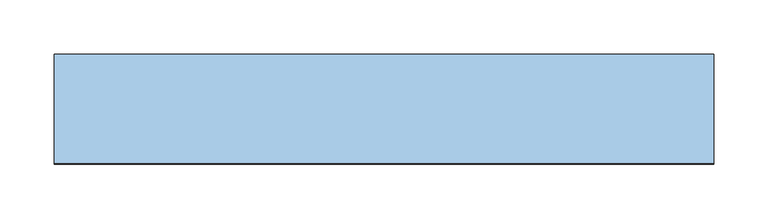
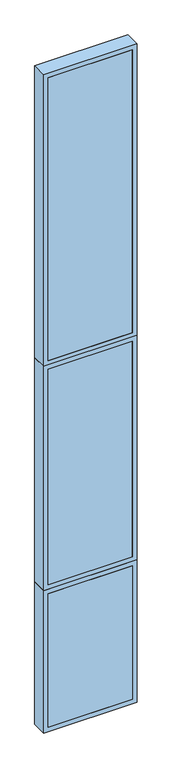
"""IFC4 building model written with IfcOpenShell, lengths in millimetres: window geometry, TRP_CP_ARC_FI_V1 : AL_P02_60.5."""

from ifc_helpers import new_model, si_unit, frame, origin, place, context, project, spatial, polyline, outline, extrude, source, transform, mapped, element, save


def window_a744d560(model_context):
    return source(origin(), model_context, "Body", "SweptSolid", [
        extrude(outline(polyline([(272.5, -50.0), (-272.5, -50.0), (-272.5, -30.0), (272.5, -30.0), (272.5, -50.0)])), frame((0.0, 0.0, 30.0), z_axis=(0.0, 0.0, 1.0), x_axis=(1.0, 0.0, 0.0)), (0.0, 0.0, 1.0), 913.0),
        extrude(outline(polyline([(973.0, 302.5), (973.0, -302.5), (0.0, -302.5), (0.0, 302.5), (973.0, 302.5)]), holes=[polyline([(30.0, 272.5), (30.0, -272.5), (943.0, -272.5), (943.0, 272.5), (30.0, 272.5)])]), frame((0.0, -50.0, 0.0), z_axis=(0.0, 1.0, 0.0), x_axis=(0.0, 0.0, 1.0)), (0.0, 0.0, 1.0), 100.0),
        extrude(outline(polyline([(2506.0, 302.5), (2506.0, -302.5), (973.0, -302.5), (973.0, 302.5), (2506.0, 302.5)]), holes=[polyline([(1003.0, 272.5), (1003.0, -272.5), (2476.0, -272.5), (2476.0, 272.5), (1003.0, 272.5)])]), frame((0.0, -50.0, 0.0), z_axis=(0.0, 1.0, 0.0), x_axis=(0.0, 0.0, 1.0)), (0.0, 0.0, 1.0), 100.0),
        extrude(outline(polyline([(272.5, -50.0), (-272.5, -50.0), (-272.5, -30.0), (272.5, -30.0), (272.5, -50.0)])), frame((0.0, 0.0, 1003.0), z_axis=(0.0, 0.0, 1.0), x_axis=(1.0, 0.0, 0.0)), (0.0, 0.0, 1.0), 1473.0),
        extrude(outline(polyline([(4500.0, 302.5), (4500.0, -302.5), (2506.0, -302.5), (2506.0, 302.5), (4500.0, 302.5)]), holes=[polyline([(2536.0, 272.5), (2536.0, -272.5), (4470.0, -272.5), (4470.0, 272.5), (2536.0, 272.5)])]), frame((0.0, -50.0, 0.0), z_axis=(0.0, 1.0, 0.0), x_axis=(0.0, 0.0, 1.0)), (0.0, 0.0, 1.0), 100.0),
        extrude(outline(polyline([(272.5, -50.0), (-272.5, -50.0), (-272.5, -30.0), (272.5, -30.0), (272.5, -50.0)])), frame((0.0, 0.0, 2536.0), z_axis=(0.0, 0.0, 1.0), x_axis=(1.0, 0.0, 0.0)), (0.0, 0.0, 1.0), 1934.0),
    ])


if __name__ == "__main__":
    model = new_model("IFC4")
    model_context = context("Model", 3, world=origin())
    ifc_project = project(units=[si_unit("LENGTHUNIT", "METRE", prefix="MILLI")], contexts=[model_context])
    site = spatial("IfcSite", under=ifc_project)
    building = spatial("IfcBuilding", under=site)
    placement = place(None, origin())
    window_shape = window_a744d560(model_context)
    element("IfcWindow", 1, ObjectType="TRP_CP_ARC_FI_V1 : AL_P02_60.5", at=placement, inside=building, context=model_context, shape_type="MappedRepresentation", body=[
        mapped(window_shape, transform((0.0, 0.0, 0.0), x_axis=(1.0, 0.0, 0.0), y_axis=(0.0, 1.0, 0.0), z_axis=(0.0, 0.0, 1.0))),
    ])
    save(model, "model.ifc")
